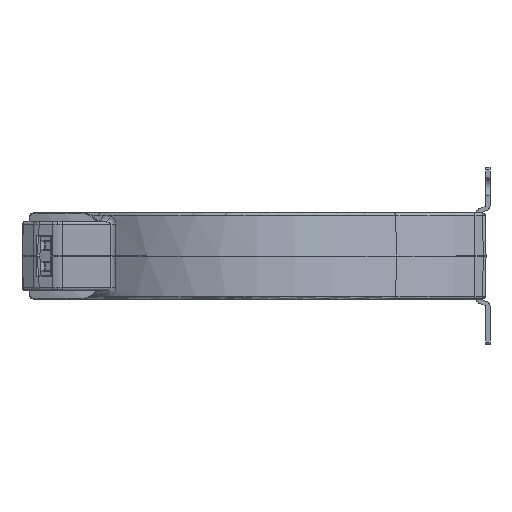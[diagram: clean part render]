
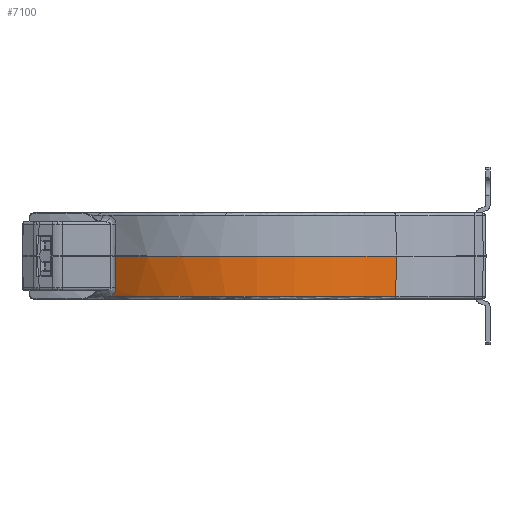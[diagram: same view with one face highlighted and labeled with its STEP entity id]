
A CAD part, left-side view. The second image highlights one B-rep face of the part: STEP entity #7100.
In plain terms, the highlighted conical face has half-angle 1 degrees and reference radius 81.321 mm.
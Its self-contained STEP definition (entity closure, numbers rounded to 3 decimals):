
#2693=CARTESIAN_POINT('',(2.555,-2.981,
-14.517));
#2694=DIRECTION('',(0.,0.,-1.));
#2695=DIRECTION('',(-0.789,-0.615,0.));
#2696=AXIS2_PLACEMENT_3D('',#2693,#2694,#2695);
#2701=CARTESIAN_POINT('',(2.555,-2.981,
-14.517));
#2702=DIRECTION('',(0.,0.,-1.));
#2703=DIRECTION('',(-1.,0.,0.));
#2704=AXIS2_PLACEMENT_3D('',#2701,#2702,#2703);
#2829=DIRECTION('',(-0.014,-0.011,1.));
#2830=VECTOR('',#2829,14.52);
#2831=CARTESIAN_POINT('',(-61.47,-52.913,
-14.517));
#2832=LINE('',#2831,#2830);
#2836=CARTESIAN_POINT('',(2.555,-2.981,
0.));
#2837=DIRECTION('',(0.,0.,-1.));
#2838=DIRECTION('',(-0.789,-0.615,0.));
#2839=AXIS2_PLACEMENT_3D('',#2836,#2837,#2838);
#2844=CARTESIAN_POINT('',(2.555,-2.981,
0.));
#2845=DIRECTION('',(0.,0.,-1.));
#2846=DIRECTION('',(-1.,0.,0.));
#2847=AXIS2_PLACEMENT_3D('',#2844,#2845,#2846);
#2852=CARTESIAN_POINT('',(-60.843,48.15,
0.));
#2853=CARTESIAN_POINT('',(-60.821,48.142,
-1.28));
#2854=CARTESIAN_POINT('',(-60.778,48.124,
-3.839));
#2855=CARTESIAN_POINT('',(-60.712,48.1,
-7.678));
#2856=CARTESIAN_POINT('',(-60.668,48.082,
-10.238));
#2857=CARTESIAN_POINT('',(-60.646,48.074,
-11.517));
#2862=CARTESIAN_POINT('',(-59.171,49.768,
-14.517));
#2863=CARTESIAN_POINT('',(-59.261,49.664,
-14.444));
#2864=CARTESIAN_POINT('',(-59.431,49.468,
-14.293));
#2865=CARTESIAN_POINT('',(-59.655,49.209,
-14.059));
#2866=CARTESIAN_POINT('',(-59.85,48.982,
-13.82));
#2867=CARTESIAN_POINT('',(-60.015,48.789,
-13.585));
#2868=CARTESIAN_POINT('',(-60.157,48.624,
-13.349));
#2869=CARTESIAN_POINT('',(-60.278,48.483,
-13.112));
#2870=CARTESIAN_POINT('',(-60.379,48.365,
-12.876));
#2871=CARTESIAN_POINT('',(-60.461,48.271,
-12.647));
#2872=CARTESIAN_POINT('',(-60.527,48.196,
-12.42));
#2873=CARTESIAN_POINT('',(-60.579,48.139,
-12.191));
#2874=CARTESIAN_POINT('',(-60.615,48.1,
-11.966));
#2875=CARTESIAN_POINT('',(-60.638,48.077,
-11.743));
#2876=CARTESIAN_POINT('',(-60.645,48.073,
-11.593));
#2877=CARTESIAN_POINT('',(-60.646,48.074,
-11.517));
#5942=CARTESIAN_POINT('',(-61.67,-53.069,
0.));
#5943=VERTEX_POINT('',#5942);
#5944=CARTESIAN_POINT('',(-78.892,-2.981,
0.));
#5945=VERTEX_POINT('',#5944);
#5946=CARTESIAN_POINT('',(-60.843,48.15,
0.));
#5947=VERTEX_POINT('',#5946);
#6189=CARTESIAN_POINT('',(-61.47,-52.913,
-14.517));
#6190=VERTEX_POINT('',#6189);
#6191=CARTESIAN_POINT('',(-78.639,-2.981,
-14.517));
#6192=VERTEX_POINT('',#6191);
#6193=CARTESIAN_POINT('',(-59.171,49.768,
-14.517));
#6194=VERTEX_POINT('',#6193);
#6202=VERTEX_POINT('',#2877);
#7082=CARTESIAN_POINT('',(2.555,-2.981,
-7.259));
#7083=DIRECTION('',(0.,0.,1.));
#7084=DIRECTION('',(1.,0.,0.));
#7085=AXIS2_PLACEMENT_3D('',#7082,#7083,#7084);
#7086=CONICAL_SURFACE('',#7085,81.321,1.);
#7088=ORIENTED_EDGE('',*,*,#7087,.F.);
#7089=ORIENTED_EDGE('',*,*,#7011,.F.);
#7090=ORIENTED_EDGE('',*,*,#7009,.F.);
#7091=ORIENTED_EDGE('',*,*,#7077,.T.);
#7093=ORIENTED_EDGE('',*,*,#7092,.T.);
#7095=ORIENTED_EDGE('',*,*,#7094,.T.);
#7097=ORIENTED_EDGE('',*,*,#7096,.T.);
#7098=EDGE_LOOP('',(#7088,#7089,#7090,#7091,#7093,#7095,#7097));
#7099=FACE_OUTER_BOUND('',#7098,.F.);
#2697=CIRCLE('',#2696,81.194);
#2705=CIRCLE('',#2704,81.194);
#2840=CIRCLE('',#2839,81.448);
#2848=CIRCLE('',#2847,81.448);
#2858=B_SPLINE_CURVE_WITH_KNOTS('',3,(#2852,#2853,#2854,#2855,#2856,#2857),
.UNSPECIFIED.,.F.,.F.,(4,1,1,4),(0.,0.333,0.667,1.),
.UNSPECIFIED.);
#2878=B_SPLINE_CURVE_WITH_KNOTS('',3,(#2862,#2863,#2864,#2865,#2866,#2867,#2868,
#2869,#2870,#2871,#2872,#2873,#2874,#2875,#2876,#2877),.UNSPECIFIED.,.F.,.F.,(4,
1,1,1,1,1,1,1,1,1,1,1,1,4),(0.,0.077,0.154,
0.231,0.308,0.385,0.462,
0.538,0.615,0.692,0.769,
0.846,0.923,1.),.UNSPECIFIED.);
#7009=EDGE_CURVE('',#6190,#6192,#2697,.T.);
#7011=EDGE_CURVE('',#6192,#6194,#2705,.T.);
#7077=EDGE_CURVE('',#6190,#5943,#2832,.T.);
#7087=EDGE_CURVE('',#6194,#6202,#2878,.T.);
#7092=EDGE_CURVE('',#5943,#5945,#2840,.T.);
#7094=EDGE_CURVE('',#5945,#5947,#2848,.T.);
#7096=EDGE_CURVE('',#5947,#6202,#2858,.T.);
#7100=ADVANCED_FACE('',(#7099),#7086,.F.);
